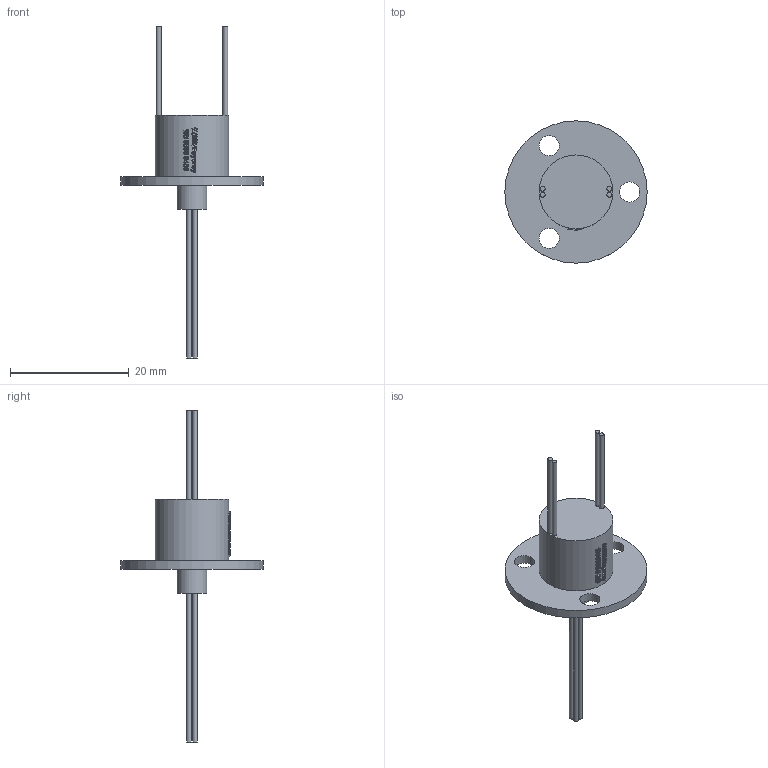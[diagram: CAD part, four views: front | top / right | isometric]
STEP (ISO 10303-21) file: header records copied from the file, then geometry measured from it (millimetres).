
FILE_DESCRIPTION(/* description */ (''),/* implementation_level */ '2;1');
FILE_NAME(/* name */ 'YM012-04.stp',/* time_stamp */ '2025-09-05T08:25:25+08:00',/* author */ (''),/* organization */ (''),/* preprocessor_version */ 'ST-DEVELOPER v16.7',/* originating_system */ 'SIEMENS PLM Software NX 12.0',/* authorisation */ '');
FILE_SCHEMA (('AUTOMOTIVE_DESIGN { 1 0 10303 214 3 1 1 1 }'));
Length unit declared in the file: millimetre
Products named in the file (1): Admi30D0F06639yx
Bounding box: 23.9 x 23.9 x 55.8 mm (x, y, z)
Volume: 2035.6 mm3; surface area: 1889.1 mm2
Topology: 1 solids, 1 shells, 707 faces, 1952 edges, 1302 vertices
Faces by surface type: extrusion 450, plane 198, cylinder 30, bspline 29
Full cylindrical faces by diameter (mm): 0.8 x8, 3.4 x3, 5 x1, 12.4 x1, 23.9 x1
Entity records: 30303 total; most frequent: CARTESIAN_POINT 15510, ORIENTED_EDGE 3872, B_SPLINE_CURVE_WITH_KNOTS 2116, EDGE_CURVE 1936, DIRECTION 1336, VERTEX_POINT 1300, EDGE_LOOP 782, ADVANCED_FACE 707
